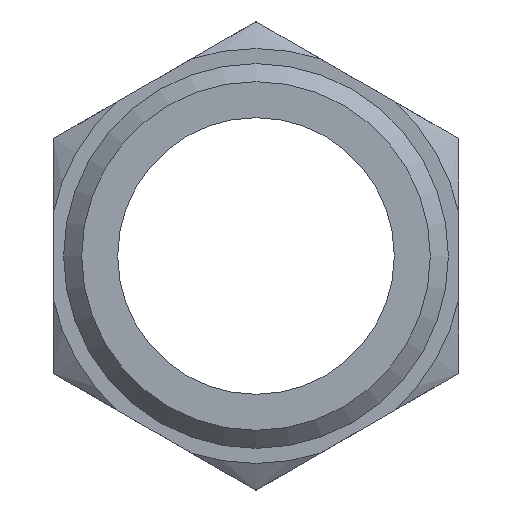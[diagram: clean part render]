
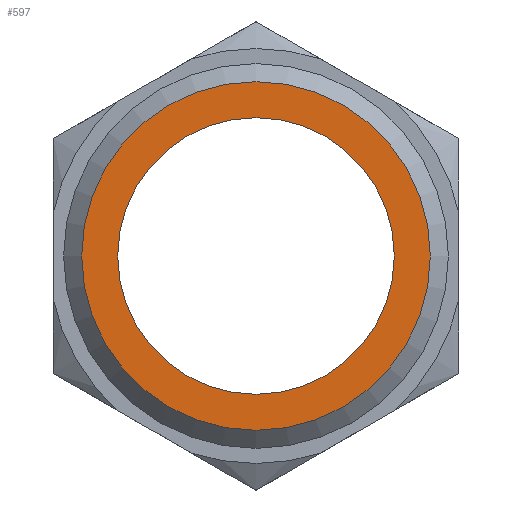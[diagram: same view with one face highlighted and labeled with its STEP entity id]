
A CAD part, front view. The second image highlights one B-rep face of the part: STEP entity #597.
In plain terms, the highlighted planar face has unit normal (0, -1, 0).
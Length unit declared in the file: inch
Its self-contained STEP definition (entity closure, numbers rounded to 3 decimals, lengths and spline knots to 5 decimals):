
#17=FACE_BOUND('',#144,.T.);
#59=CIRCLE('',#674,0.295);
#62=CIRCLE('',#679,0.234);
#63=CIRCLE('',#680,0.234);
#108=FACE_OUTER_BOUND('',#143,.T.);
#143=EDGE_LOOP('',(#535));
#144=EDGE_LOOP('',(#536,#537));
#285=VERTEX_POINT('',#1066);
#288=VERTEX_POINT('',#1076);
#289=VERTEX_POINT('',#1077);
#371=EDGE_CURVE('',#285,#285,#59,.T.);
#376=EDGE_CURVE('',#288,#289,#62,.T.);
#377=EDGE_CURVE('',#289,#288,#63,.T.);
#535=ORIENTED_EDGE('',*,*,#371,.F.);
#536=ORIENTED_EDGE('',*,*,#376,.F.);
#537=ORIENTED_EDGE('',*,*,#377,.F.);
#565=PLANE('',#678);
#597=ADVANCED_FACE('',(#108,#17),#565,.T.);
#674=AXIS2_PLACEMENT_3D('',#1067,#831,#832);
#678=AXIS2_PLACEMENT_3D('',#1075,#841,#842);
#679=AXIS2_PLACEMENT_3D('',#1078,#843,#844);
#680=AXIS2_PLACEMENT_3D('',#1079,#845,#846);
#831=DIRECTION('center_axis',(0.,1.,0.));
#832=DIRECTION('ref_axis',(0.,0.,1.));
#841=DIRECTION('center_axis',(0.,-1.,0.));
#842=DIRECTION('ref_axis',(0.,0.,-1.));
#843=DIRECTION('center_axis',(0.,-1.,0.));
#844=DIRECTION('ref_axis',(1.,0.,0.));
#845=DIRECTION('center_axis',(0.,-1.,0.));
#846=DIRECTION('ref_axis',(1.,0.,0.));
#1066=CARTESIAN_POINT('',(0.,0.,-0.295));
#1067=CARTESIAN_POINT('Origin',(0.,0.,0.));
#1075=CARTESIAN_POINT('Origin',(0.,0.,-0.234));
#1076=CARTESIAN_POINT('',(0.,0.,-0.234));
#1077=CARTESIAN_POINT('',(0.,0.,0.234));
#1078=CARTESIAN_POINT('Origin',(0.,0.,0.));
#1079=CARTESIAN_POINT('Origin',(0.,0.,0.));
